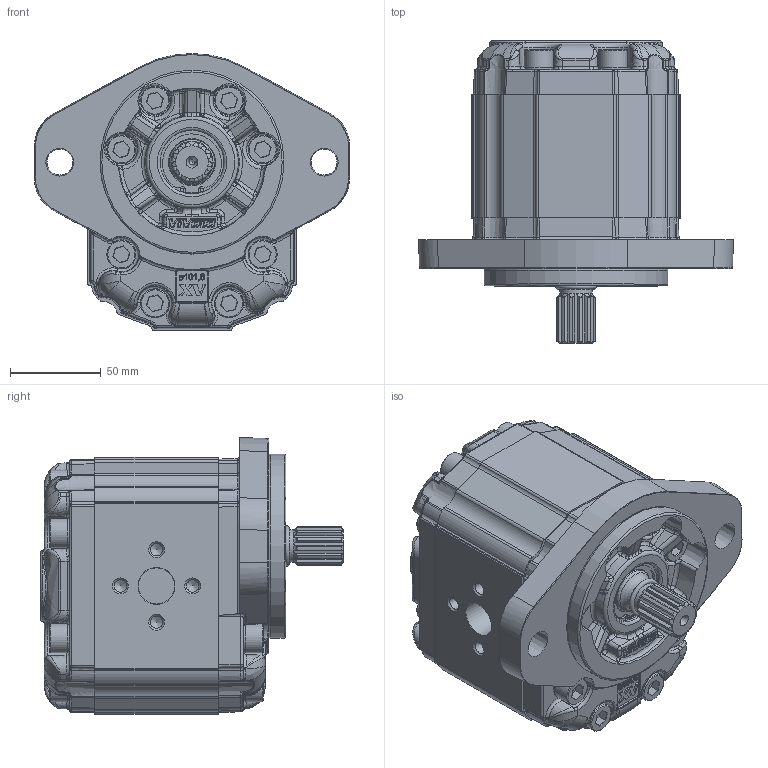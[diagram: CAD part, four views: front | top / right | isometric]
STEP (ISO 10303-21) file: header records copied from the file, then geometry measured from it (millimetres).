
FILE_DESCRIPTION(/* description */ ('Unknown'),/* implementation_level */ '2;1');
FILE_NAME(/* name */ 'X3U6831IAAA',/* time_stamp */ '2021-04-26T09:46:51+02:00',/* author */ ('Unknown'),/* organization */ ('Unknown'),/* preprocessor_version */ 'ST-DEVELOPER v16.7',/* originating_system */ 'Solid Edge',/* authorisation */ 'Unknown');
FILE_SCHEMA (('AUTOMOTIVE_DESIGN {1 0 10303 214 3 1 1}'));
Products named in the file (5): X3U6831IAAA; X3U31; 3I; X3AAH68; XU331-A
Assembly tree (4 placements, depth 2):
  X3U6831IAAA
    X3U31
    3I
    X3AAH68
    XU331-A
Bounding box: 174 x 167.2 x 153 mm (x, y, z)
Volume: 1816840.4 mm3; surface area: 196828.3 mm2
Topology: 4 solids, 21 shells, 3065 faces, 7898 edges, 4997 vertices
Faces by surface type: bspline 1317, plane 873, cylinder 654, cone 106, torus 99, sphere 16
Full cylindrical faces by diameter (mm): 2 x2, 6.8 x8, 10 x16, 15.8 x16, 16 x16, 18 x2, 20 x2, 24.98 x1, 25.5 x1, 26.8 x1, 29.425 x1, 31.42 x1, 33.304 x1, 34.7 x1, 35 x2, 35.2 x1, 37 x1, 101.6 x1
Entity records: 162889 total; most frequent: CARTESIAN_POINT 82483, ORIENTED_EDGE 15328, EDGE_CURVE 7664, DIRECTION 6742, B_SPLINE_CURVE_WITH_KNOTS 4985, VERTEX_POINT 4931, FACE_BOUND 3367, EDGE_LOOP 3358
